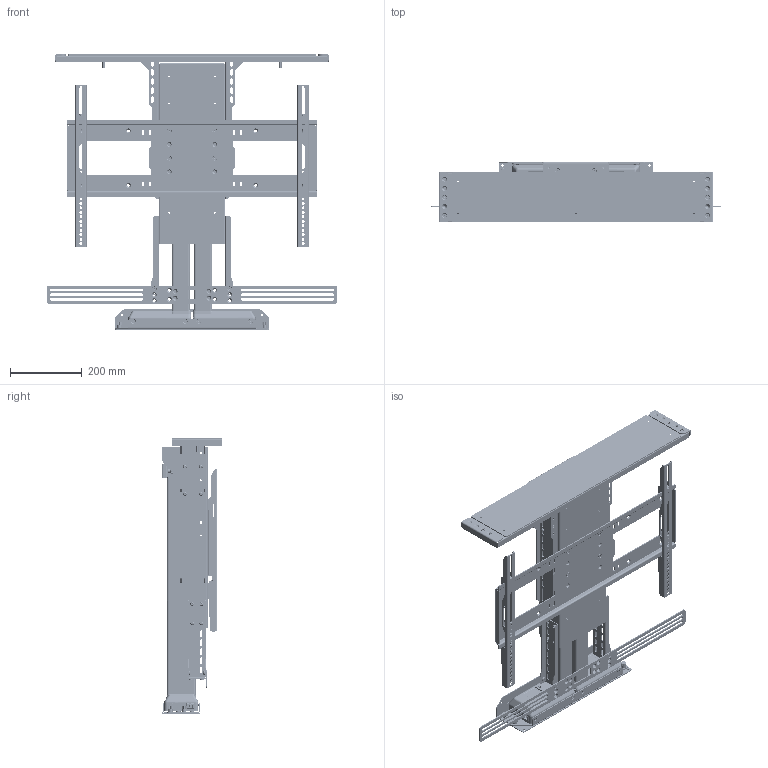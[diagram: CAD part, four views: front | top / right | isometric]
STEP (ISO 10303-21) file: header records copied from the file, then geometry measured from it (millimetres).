
FILE_DESCRIPTION(/* description */ ('STEP AP242','CAx-IF Rec.Pracs.---Representation and Presentation of Product Manufacturing Information (PMI)---4.0---2014-10-13','CAx-IF Rec.Pracs.---3D Tessellated Geometry---0.4---2014-09-14','2;1'),/* implementation_level */ '2;1');
FILE_NAME(/* name */ '654aa21dc3dc330f76ed964a',/* time_stamp */ '2023-11-07T20:46:25Z',/* author */ (''),/* organization */ (''),/* preprocessor_version */ 'ST-DEVELOPER v19.4',/* originating_system */ ' ',/* authorisation */ ' ');
FILE_SCHEMA (('AP242_MANAGED_MODEL_BASED_3D_ENGINEERING_MIM_LF { 1 0 10303 442 1 1 4 }'));
Products named in the file (59): DL-65 (HD); WDS8151-215; Socket button head screw M6x1 x 12; Hex socket countersunk head screw M6x1 x 12; Socket button head screw M6x1 x 16; L-65x SBM Bracket; ULS-NX-032 - HD Quick Release LC Mount; Lift Column H <2>; L45 LC Motor Housing; L45 LC Inner Profile; L45 LC Middle Profile; L65 PS Adapter; ULS-NX-031 - HD QUICK RELEASE BASE MOUNT w/ PEMS <1>; ULS-NX-031 - HD QUICK RELEASE BASE MOUNT; PEM FHS-M6-12  ; ULS-NX-030 - HD REAR SUPPORT w/ PEMs <1>; ULS-NX-030 - HD Rear Support; ULS-NX-029 - HD Column Clamp; ULS-NX-033 - HD LOWER ACCESSORY BRACKET w/ PEMS <1>; ULS-NX-033 - HD LOWER ACCESSORY BRACKET; PEM CLS-M6-1  ; Lift Column H <1>; ULS-NX-033 - HD LOWER ACCESSORY BRACKET w/ PEMS <2>; SS Fixed Short - Rev B2 <1>; PEM CLS-M6-1; PEM Nut F-M4-2; PEM Nut CLSS-M5-1; PS Screen Support Fixed 01; SBP & VMB <1>; PZ Pan head screw M5x0.80 x 25; ULS-NX-118 - UL VMB WELDMENT <1>; 90107A012; PEM BSO-632-10  ZI; VMB Washer; ULS-NX-020 - UL SCREEN LOCK; Socket button head cap screw #6-32 x 0.188; ULS-NX-019 - UL LEVEL ADJUSTMENT PLATE; ULS-NX-018 - UL VERICAL MOUNTING BAR; ULS-NX-118 - UL VMB WELDMENT <2>; ULS-NX-017 - UL SCREEN BACK PLATE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
Assembly tree (219 placements, depth 5):
  DL-65 (HD)
    WDS8151-215  x6
    Socket button head screw M6x1 x 12  x16
    Hex socket countersunk head screw M6x1 x 12  x17
    Hex socket countersunk head screw M6x1 x 12  x2
    Socket button head screw M6x1 x 16  x8
    L-65x SBM Bracket
    ULS-NX-032 - HD Quick Release LC Mount
    Lift Column H <2>
      L45 LC Motor Housing
      L45 LC Inner Profile
      L45 LC Middle Profile
    L65 PS Adapter
    ULS-NX-031 - HD QUICK RELEASE BASE MOUNT w/ PEMS <1>
      ULS-NX-031 - HD QUICK RELEASE BASE MOUNT
      PEM FHS-M6-12    x4
    ULS-NX-030 - HD REAR SUPPORT w/ PEMs <1>
      PEM FHS-M6-12    x2
      ULS-NX-030 - HD Rear Support
    ULS-NX-029 - HD Column Clamp
    ULS-NX-033 - HD LOWER ACCESSORY BRACKET w/ PEMS <1>
      ULS-NX-033 - HD LOWER ACCESSORY BRACKET
      PEM CLS-M6-1    x4
    Lift Column H <1>
      L45 LC Inner Profile
      L45 LC Middle Profile
      L45 LC Motor Housing
    ULS-NX-033 - HD LOWER ACCESSORY BRACKET w/ PEMS <2>
      PEM CLS-M6-1    x4
      ULS-NX-033 - HD LOWER ACCESSORY BRACKET
    SS Fixed Short - Rev B2 <1>
      PEM CLS-M6-1  x42
      PEM Nut F-M4-2  x8
      PEM Nut CLSS-M5-1  x2
      PS Screen Support Fixed 01
      L65 PS Adapter
    SBP & VMB <1>
      PZ Pan head screw M5x0.80 x 25  x2
      ULS-NX-118 - UL VMB WELDMENT <1>
        90107A012  x2
        PEM BSO-632-10  ZI  x2
        VMB Washer  x4
        ULS-NX-020 - UL SCREEN LOCK
        Socket button head cap screw #6-32 x 0.188  x2
        ULS-NX-019 - UL LEVEL ADJUSTMENT PLATE
        ULS-NX-018 - UL VERICAL MOUNTING BAR
      ULS-NX-118 - UL VMB WELDMENT <2>
        90107A012  x2
        PEM BSO-632-10  ZI  x2
        ULS-NX-018 - UL VERICAL MOUNTING BAR
        Socket button head cap screw #6-32 x 0.188  x2
        ULS-NX-019 - UL LEVEL ADJUSTMENT PLATE
        VMB Washer  x4
        ULS-NX-020 - UL SCREEN LOCK
      ULS-NX-017 - UL SCREEN BACK PLATE
    L-65 HD Lid Plate Assembly w/ Lid Supports <2>
      Hex socket countersunk head screw M6x1 x 12  x4
      ULS-NX-039 - ULS HD LID SUPPORT w/ PEMs <2>
        ULS-NX-039 -- ULS HD LID SUPPORT
        PEM CLS-M6-00    x2
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Bounding box: 812.8 x 170.28 x 768.93 mm (x, y, z)
Volume: 16889373 mm3; surface area: 3128843.4 mm2
Topology: 204 solids, 204 shells, 12708 faces, 33321 edges, 21525 vertices
Faces by surface type: plane 8068, cylinder 2845, cone 938, bspline 518, torus 277, sphere 62
Full cylindrical faces by diameter (mm): 2.642 x4, 3.505 x4, 4 x8, 4.496 x6, 4.6 x4, 4.917 x64, 5 x36, 5.026 x4, 5.08 x4, 5.277 x8, 5.3 x12, 5.385 x12, 5.41 x8, 5.6 x8, 5.944 x4, 5.994 x4, 6 x93, 6.35 x28, 6.4 x20, 6.6 x18, 6.655 x4, 6.934 x2, 7.112 x2, 7.37 x16, 7.493 x2, 7.925 x2, 8.128 x34, 8.509 x2, 8.64 x2, 8.73 x60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
Entity records: 111154 total; most frequent: CARTESIAN_POINT 21371, DIRECTION 17513, ORIENTED_EDGE 16988, EDGE_CURVE 8494, AXIS2_PLACEMENT_3D 5975, VERTEX_POINT 5690, LINE 5563, VECTOR 5563
